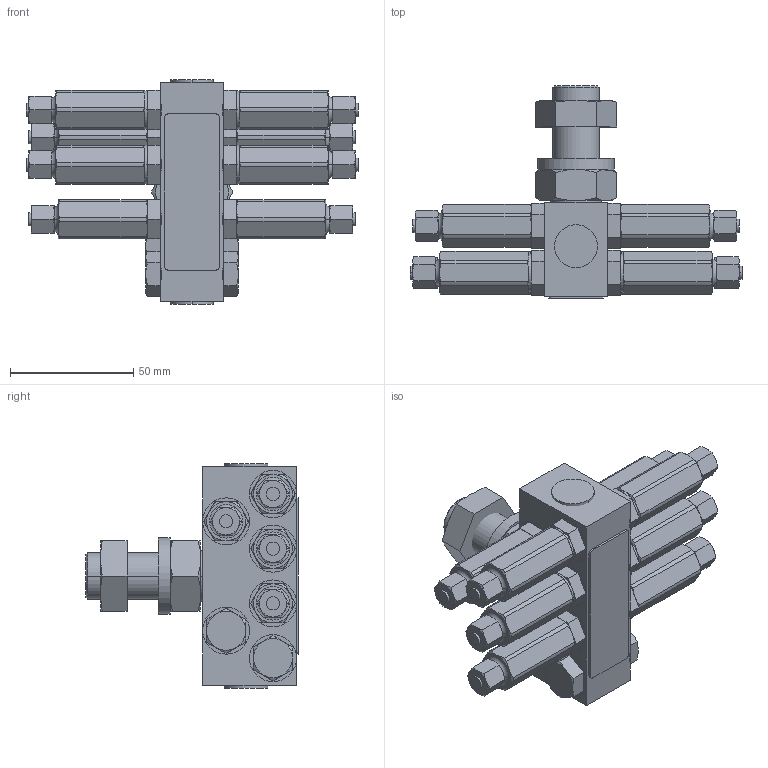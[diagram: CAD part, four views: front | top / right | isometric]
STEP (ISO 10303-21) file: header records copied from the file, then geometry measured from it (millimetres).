
FILE_DESCRIPTION((''),'2;1');
FILE_NAME('25C856-EN-C_PRT','2019-12-31T19:49:55',('qusrh3'),(''),'CREO PARAMETRIC BY PTC INC, 2019030','CREO PARAMETRIC BY PTC INC, 2019030','');
FILE_SCHEMA(('CONFIG_CONTROL_DESIGN'));
Length unit declared in the file: inch
Products named in the file (1): 25C856-EN-C_PRT
Bounding box: 134.87 x 86.39 x 91.34 mm (x, y, z)
Surface area: 55198.6 mm2 (no closed solid volume)
Topology: 0 solids, 57 shells, 549 faces, 1304 edges, 814 vertices
Faces by surface type: plane 262, cone 160, cylinder 109, torus 18
Entity records: 17392 total; most frequent: CARTESIAN_POINT 5295, DIRECTION 2474, ORIENTED_EDGE 2426, EDGE_CURVE 1304, AXIS2_PLACEMENT_3D 981, VERTEX_POINT 814, EDGE_LOOP 549, FACE_OUTER_BOUND 549
